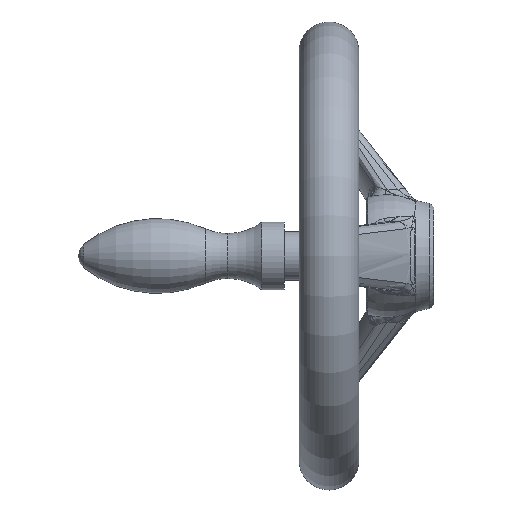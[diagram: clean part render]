
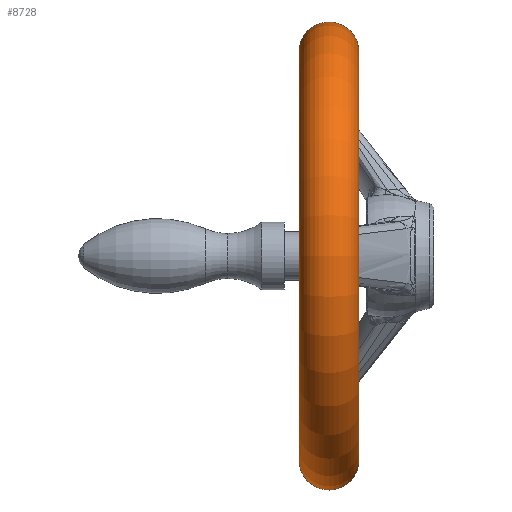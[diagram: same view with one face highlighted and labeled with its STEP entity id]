
A CAD part, left-side view. The second image highlights one B-rep face of the part: STEP entity #8728.
In plain terms, the highlighted toroidal (fillet/blend) face has major radius 54.483 mm and minor radius 8.017 mm.
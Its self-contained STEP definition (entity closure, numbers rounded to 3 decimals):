
#474 = DIRECTION ( 'NONE',  ( 0., -1., 0. ) ) ;
#595 = FACE_OUTER_BOUND ( 'NONE', #2005, .T. ) ;
#652 = AXIS2_PLACEMENT_3D ( 'NONE', #3901, #7249, #6445 ) ;
#720 = CIRCLE ( 'NONE', #1736, 8.017 ) ;
#1285 = CARTESIAN_POINT ( 'NONE',  ( 0., 36., 55. ) ) ;
#1321 = CARTESIAN_POINT ( 'NONE',  ( 0., 28., 54.483 ) ) ;
#1736 = AXIS2_PLACEMENT_3D ( 'NONE', #7821, #2778, #8686 ) ;
#2005 = EDGE_LOOP ( 'NONE', ( #4177, #7933, #5293, #9929 ) ) ;
#2178 = DIRECTION ( 'NONE',  ( 0., 0., -1. ) ) ;
#2778 = DIRECTION ( 'NONE',  ( -1., 0., 0. ) ) ;
#3520 = VERTEX_POINT ( 'NONE', #7028 ) ;
#3546 = CARTESIAN_POINT ( 'NONE',  ( 0., 20., 0. ) ) ;
#3901 = CARTESIAN_POINT ( 'NONE',  ( 0., 28., 0. ) ) ;
#4146 = VERTEX_POINT ( 'NONE', #6992 ) ;
#4177 = ORIENTED_EDGE ( 'NONE', *, *, #9387, .F. ) ;
#4373 = DIRECTION ( 'NONE',  ( 0., 0., -1. ) ) ;
#4916 = VERTEX_POINT ( 'NONE', #1285 ) ;
#5233 = CIRCLE ( 'NONE', #5259, 55. ) ;
#5259 = AXIS2_PLACEMENT_3D ( 'NONE', #5545, #474, #6404 ) ;
#5293 = ORIENTED_EDGE ( 'NONE', *, *, #9177, .T. ) ;
#5545 = CARTESIAN_POINT ( 'NONE',  ( 0., 36., 0. ) ) ;
#5702 = AXIS2_PLACEMENT_3D ( 'NONE', #1321, #7230, #2178 ) ;
#6404 = DIRECTION ( 'NONE',  ( 0., 0., -1. ) ) ;
#6445 = DIRECTION ( 'NONE',  ( 0., 0., -1. ) ) ;
#6992 = CARTESIAN_POINT ( 'NONE',  ( 0., 36., -55. ) ) ;
#7028 = CARTESIAN_POINT ( 'NONE',  ( 0., 20., -55. ) ) ;
#7173 = AXIS2_PLACEMENT_3D ( 'NONE', #3546, #9438, #4373 ) ;
#7230 = DIRECTION ( 'NONE',  ( 1., 0., 0. ) ) ;
#7249 = DIRECTION ( 'NONE',  ( 0., -1., 0. ) ) ;
#7762 = EDGE_CURVE ( 'NONE', #8775, #3520, #8281, .T. ) ;
#7821 = CARTESIAN_POINT ( 'NONE',  ( 0., 28., -54.483 ) ) ;
#7933 = ORIENTED_EDGE ( 'NONE', *, *, #7946, .T. ) ;
#7946 = EDGE_CURVE ( 'NONE', #4916, #4146, #5233, .T. ) ;
#8281 = CIRCLE ( 'NONE', #7173, 55. ) ;
#8686 = DIRECTION ( 'NONE',  ( 0., 0., 1. ) ) ;
#8728 = ADVANCED_FACE ( 'NONE', ( #595 ), #9591, .T. ) ;
#8775 = VERTEX_POINT ( 'NONE', #9994 ) ;
#8929 = CIRCLE ( 'NONE', #5702, 8.017 ) ;
#9177 = EDGE_CURVE ( 'NONE', #4146, #3520, #720, .T. ) ;
#9387 = EDGE_CURVE ( 'NONE', #4916, #8775, #8929, .T. ) ;
#9438 = DIRECTION ( 'NONE',  ( 0., -1., 0. ) ) ;
#9591 = TOROIDAL_SURFACE ( 'NONE', #652, 54.483, 8.017 ) ;
#9929 = ORIENTED_EDGE ( 'NONE', *, *, #7762, .F. ) ;
#9994 = CARTESIAN_POINT ( 'NONE',  ( 0., 20., 55. ) ) ;
